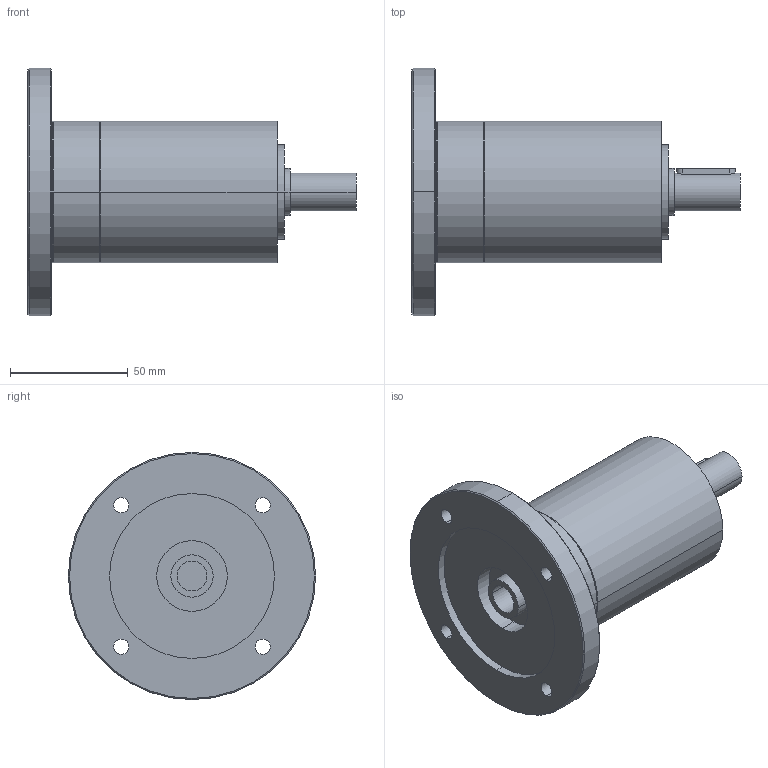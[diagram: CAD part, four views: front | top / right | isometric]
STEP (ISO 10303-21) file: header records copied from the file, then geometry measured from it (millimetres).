
FILE_DESCRIPTION(('CoCreate Modeling STEP Export'),'2;1');
FILE_NAME('GPR75_ig-9-12-16-20-24-30-36_16_B14_12.7_P05.stp','2014-08-25T16:02:15',(''),(''),'CoCreate Modeling STEP processor for AP214 (Solid Model)','CoCreate Modeling 16.00C 25-Feb-2009 (C) Parametric Technology GmbH','');
FILE_SCHEMA(('AUTOMOTIVE_DESIGN { 1 0 10303 214 1 1 1 1 }'));
Length unit declared in the file: millimetre
Products named in the file (2): GPR75_ig-9-12-16-20-24-30-36_16_B14_12.7_P05
Assembly tree (1 placements, depth 2):
  GPR75_ig-9-12-16-20-24-30-36_16_B14_12.7_P05
    GPR75_ig-9-12-16-20-24-30-36_16_B14_12.7_P05
Bounding box: 139.4 x 105 x 105 mm (x, y, z)
Volume: 345409 mm3; surface area: 45015.6 mm2
Topology: 1 solids, 1 shells, 71 faces, 184 edges, 128 vertices
Faces by surface type: cylinder 42, plane 19, cone 10
Entity records: 1867 total; most frequent: ORIENTED_EDGE 364, CARTESIAN_POINT 343, DIRECTION 244, EDGE_CURVE 182, VERTEX_POINT 128, EDGE_LOOP 94, AXIS2_PLACEMENT_3D 93, FACE_OUTER_BOUND 71
